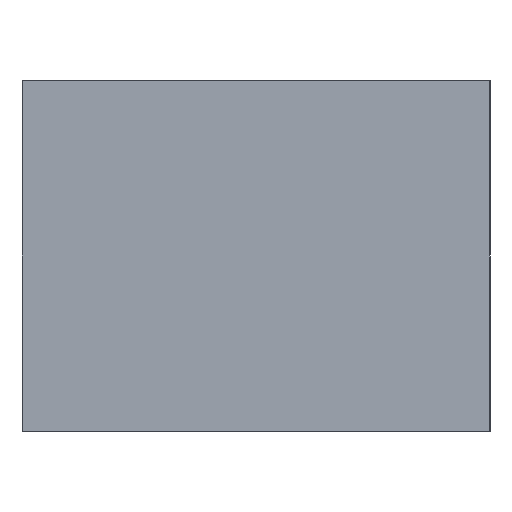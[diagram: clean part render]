
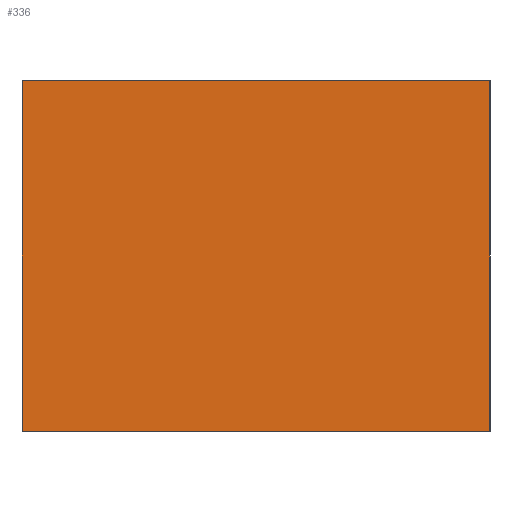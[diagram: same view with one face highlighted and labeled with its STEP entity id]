
A CAD part, front view. The second image highlights one B-rep face of the part: STEP entity #336.
In plain terms, the highlighted planar face has unit normal (0, -1, 0).
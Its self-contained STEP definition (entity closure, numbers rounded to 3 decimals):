
#217 = VERTEX_POINT('',#218);
#218 = CARTESIAN_POINT('',(-0.8,-1.6,1.2));
#235 = VERTEX_POINT('',#236);
#236 = CARTESIAN_POINT('',(-0.8,-1.6,0.));
#242 = EDGE_CURVE('',#217,#235,#243,.T.);
#243 = LINE('',#244,#245);
#244 = CARTESIAN_POINT('',(-0.8,-1.6,1.2));
#245 = VECTOR('',#246,1.);
#246 = DIRECTION('',(0.,0.,-1.));
#266 = VERTEX_POINT('',#267);
#267 = CARTESIAN_POINT('',(0.8,-1.6,0.));
#273 = EDGE_CURVE('',#235,#266,#274,.T.);
#274 = LINE('',#275,#276);
#275 = CARTESIAN_POINT('',(-0.8,-1.6,0.));
#276 = VECTOR('',#277,1.);
#277 = DIRECTION('',(1.,0.,0.));
#297 = VERTEX_POINT('',#298);
#298 = CARTESIAN_POINT('',(0.8,-1.6,1.2));
#304 = EDGE_CURVE('',#266,#297,#305,.T.);
#305 = LINE('',#306,#307);
#306 = CARTESIAN_POINT('',(0.8,-1.6,0.));
#307 = VECTOR('',#308,1.);
#308 = DIRECTION('',(0.,0.,1.));
#326 = EDGE_CURVE('',#297,#217,#327,.T.);
#327 = LINE('',#328,#329);
#328 = CARTESIAN_POINT('',(0.8,-1.6,1.2));
#329 = VECTOR('',#330,1.);
#330 = DIRECTION('',(-1.,0.,0.));
#336 = ADVANCED_FACE('',(#337),#343,.F.);
#337 = FACE_BOUND('',#338,.T.);
#338 = EDGE_LOOP('',(#339,#340,#341,#342));
#339 = ORIENTED_EDGE('',*,*,#242,.T.);
#340 = ORIENTED_EDGE('',*,*,#273,.T.);
#341 = ORIENTED_EDGE('',*,*,#304,.T.);
#342 = ORIENTED_EDGE('',*,*,#326,.T.);
#343 = PLANE('',#344);
#344 = AXIS2_PLACEMENT_3D('',#345,#346,#347);
#345 = CARTESIAN_POINT('',(0.,-1.6,0.6));
#346 = DIRECTION('',(0.,1.,0.));
#347 = DIRECTION('',(0.,0.,1.));
